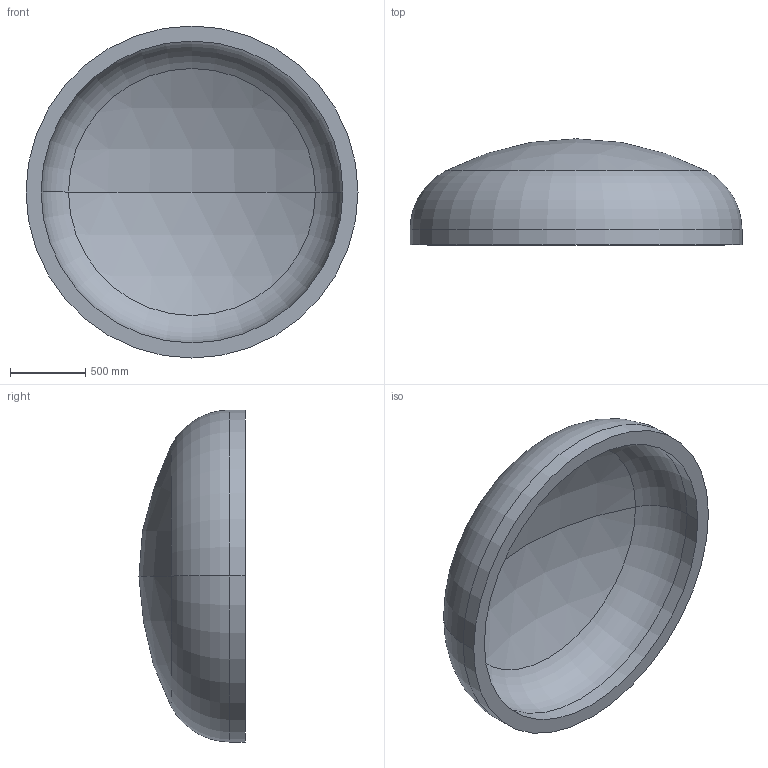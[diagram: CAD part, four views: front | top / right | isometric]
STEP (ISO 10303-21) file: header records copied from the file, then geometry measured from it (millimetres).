
FILE_DESCRIPTION (( 'STEP AP203' ), '1' );
FILE_NAME ('DIN 28013 Korbbogenform_-_Boden DIN 28013 - 2200 x 100 - I - s=100.step', '2016-07-01T14:54:07', ( '' ), ( '' ), 'SwSTEP 2.0', 'SolidWorks 2013', '' );
FILE_SCHEMA (( 'CONFIG_CONTROL_DESIGN' ));
Length unit declared in the file: millimetre
Products named in the file (1): DIN 28013 Korbbogenform_-_Boden DIN 28013 - 2200 x 100 - I - s=100
Bounding box: 2200 x 702.7 x 2200 mm (x, y, z)
Volume: 562830623.4 mm3; surface area: 11937287.7 mm2
Topology: 1 solids, 1 shells, 13 faces, 24 edges, 14 vertices
Faces by surface type: torus 4, cylinder 4, sphere 4, plane 1
Entity records: 407 total; most frequent: DIRECTION 72, CARTESIAN_POINT 52, ORIENTED_EDGE 48, AXIS2_PLACEMENT_3D 34, EDGE_CURVE 24, CIRCLE 20, VERTEX_POINT 14, EDGE_LOOP 14
